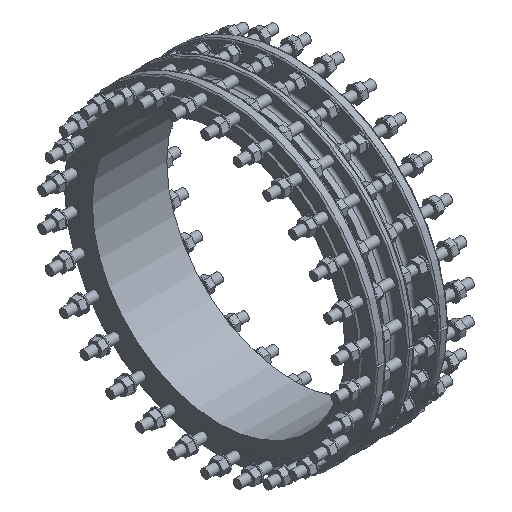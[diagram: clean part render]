
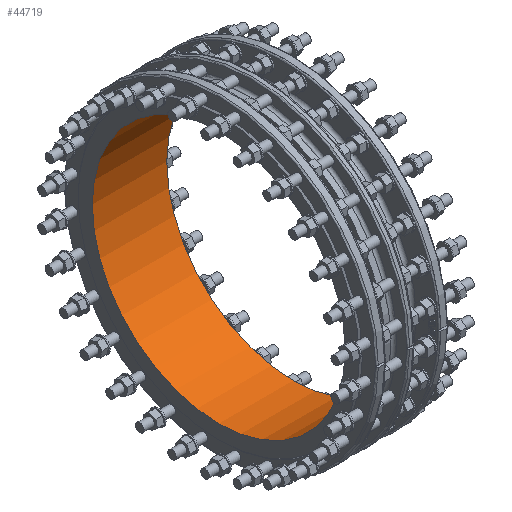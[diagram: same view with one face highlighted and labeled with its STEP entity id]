
A CAD part, isometric view. The second image highlights one B-rep face of the part: STEP entity #44719.
In plain terms, the highlighted cylindrical face has radius 450 mm (diameter 900 mm), a full revolution.
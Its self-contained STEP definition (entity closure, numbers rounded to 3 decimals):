
#1188 = CARTESIAN_POINT ( 'NONE',  ( -21., 0., -450. ) ) ;
#2473 = CARTESIAN_POINT ( 'NONE',  ( 0., 0., 0. ) ) ;
#3183 = FACE_OUTER_BOUND ( 'NONE', #20446, .T. ) ;
#5706 = DIRECTION ( 'NONE',  ( 0., 0., -1. ) ) ;
#7279 = CIRCLE ( 'NONE', #30397, 450. ) ;
#10172 = CIRCLE ( 'NONE', #17878, 450. ) ;
#10835 = EDGE_CURVE ( 'NONE', #36930, #36930, #7279, .T. ) ;
#13074 = CYLINDRICAL_SURFACE ( 'NONE', #33056, 450. ) ;
#16574 = EDGE_LOOP ( 'NONE', ( #41233 ) ) ;
#17878 = AXIS2_PLACEMENT_3D ( 'NONE', #33063, #39824, #21712 ) ;
#20181 = DIRECTION ( 'NONE',  ( 1., 0., 0. ) ) ;
#20446 = EDGE_LOOP ( 'NONE', ( #21486 ) ) ;
#21486 = ORIENTED_EDGE ( 'NONE', *, *, #34177, .F. ) ;
#21712 = DIRECTION ( 'NONE',  ( 0., 0., 1. ) ) ;
#22196 = CARTESIAN_POINT ( 'NONE',  ( 244., 0., 450. ) ) ;
#27197 = CARTESIAN_POINT ( 'NONE',  ( -21., 0., 0. ) ) ;
#30397 = AXIS2_PLACEMENT_3D ( 'NONE', #27197, #20181, #5706 ) ;
#31910 = DIRECTION ( 'NONE',  ( -1., 0., 0. ) ) ;
#33056 = AXIS2_PLACEMENT_3D ( 'NONE', #2473, #31910, #46623 ) ;
#33063 = CARTESIAN_POINT ( 'NONE',  ( 244., 0., 0. ) ) ;
#34177 = EDGE_CURVE ( 'NONE', #36698, #36698, #10172, .T. ) ;
#36698 = VERTEX_POINT ( 'NONE', #22196 ) ;
#36930 = VERTEX_POINT ( 'NONE', #1188 ) ;
#39824 = DIRECTION ( 'NONE',  ( -1., 0., 0. ) ) ;
#41233 = ORIENTED_EDGE ( 'NONE', *, *, #10835, .F. ) ;
#44719 = ADVANCED_FACE ( 'NONE', ( #3183, #46150 ), #13074, .F. ) ;
#46150 = FACE_OUTER_BOUND ( 'NONE', #16574, .T. ) ;
#46623 = DIRECTION ( 'NONE',  ( 0., 0., 1. ) ) ;
